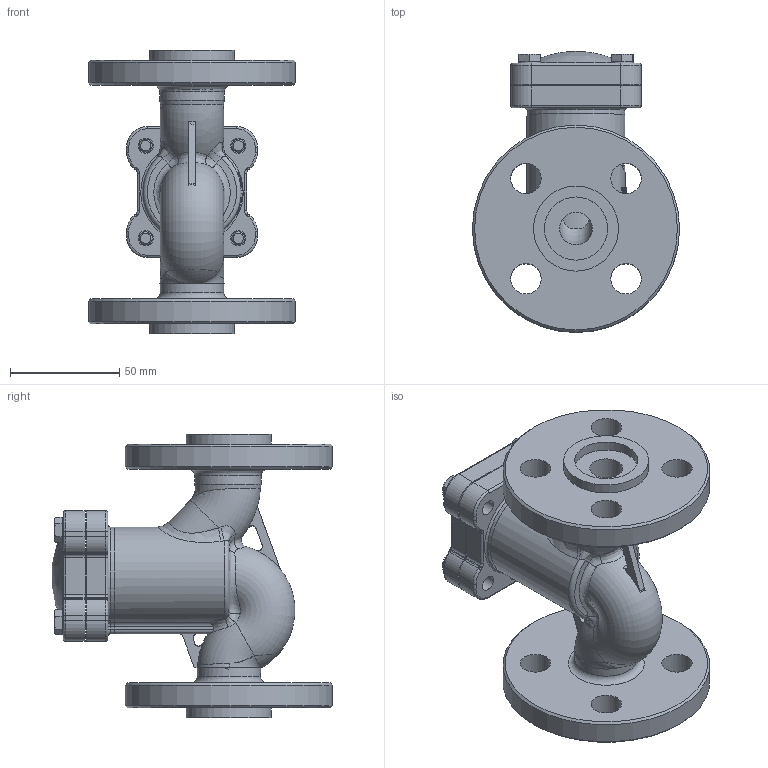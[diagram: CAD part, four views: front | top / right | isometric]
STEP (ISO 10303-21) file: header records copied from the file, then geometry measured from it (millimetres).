
FILE_DESCRIPTION(('STEP AP214'), '1');
FILE_NAME('VCR3434-F 孰囡囗 钺疣蝽 DN.ru 捏15 畜40', '', ('UNSPECIFIED'), ('UNSPECIFIED'), 'C3D Converter', 'C3D Toolkit', '');
FILE_SCHEMA(('AUTOMOTIVE_DESIGN { 1 0 10303 214 3 1 1}'));
Length unit declared in the file: millimetre
Products named in the file (1): VCR3434-F
Bounding box: 95 x 128.88 x 130 mm (x, y, z)
Volume: 356902.4 mm3; surface area: 81790.3 mm2
Topology: 2 solids, 2 shells, 424 faces, 1012 edges, 633 vertices
Faces by surface type: plane 165, cylinder 120, bspline 60, torus 45, cone 32, extrusion 1, sphere 1
Full cylindrical faces by diameter (mm): 6 x4, 7 x8, 10 x4, 14 x8, 15 x4, 29 x4, 39 x2, 95 x2
Entity records: 26235 total; most frequent: CARTESIAN_POINT 14369, ORIENTED_EDGE 1914, DIRECTION 1850, EDGE_CURVE 957, AXIS2_PLACEMENT_3D 749, VERTEX_POINT 631, EDGE_LOOP 546, FACE_BOUND 467
